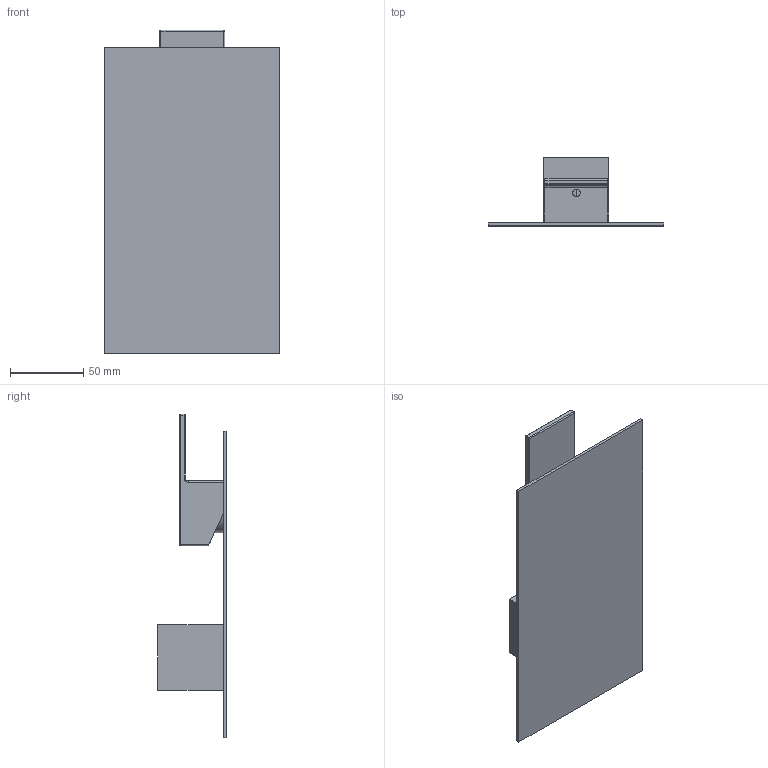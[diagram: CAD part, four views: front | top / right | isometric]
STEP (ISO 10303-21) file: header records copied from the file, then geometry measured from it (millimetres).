
FILE_DESCRIPTION (( 'STEP AP214' ), '1' );
FILE_NAME ('58221610 x architetti.STEP', '2025-01-25T07:18:23', ( '' ), ( '' ), 'SwSTEP 2.0', 'SolidWorks 2020', '' );
FILE_SCHEMA (( 'AUTOMOTIVE_DESIGN' ));
Length unit declared in the file: millimetre
Products named in the file (1): 58221610 x architetti
Bounding box: 120 x 47 x 221.58 mm (x, y, z)
Volume: 178299.4 mm3; surface area: 77646.8 mm2
Topology: 1 solids, 1 shells, 79 faces, 231 edges, 147 vertices
Faces by surface type: plane 34, cylinder 30, bspline 15
Entity records: 4345 total; most frequent: CARTESIAN_POINT 1581, ORIENTED_EDGE 442, DIRECTION 315, EDGE_CURVE 221, VERTEX_POINT 147, VECTOR 115, LINE 115, AXIS2_PLACEMENT_3D 100
